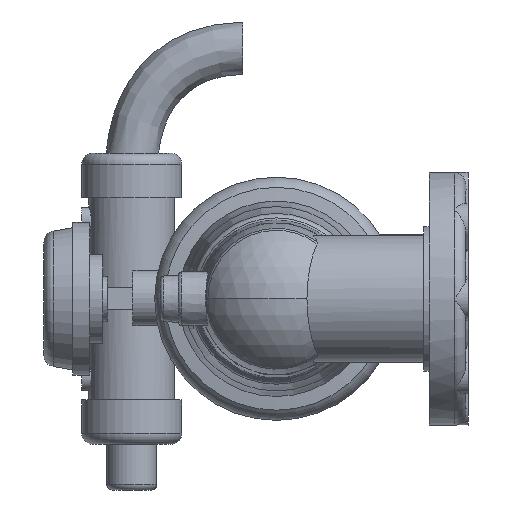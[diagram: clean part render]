
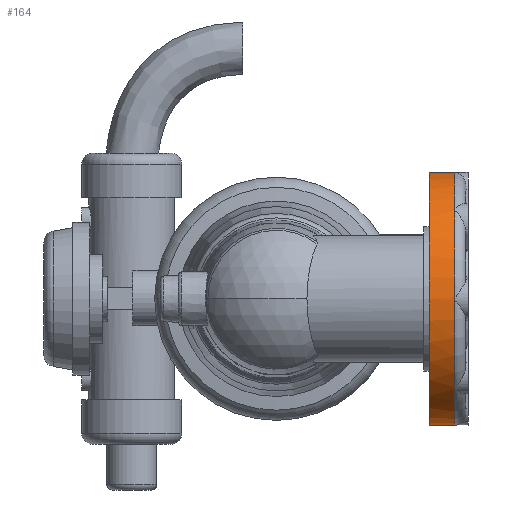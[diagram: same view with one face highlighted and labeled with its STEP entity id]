
A CAD part, front view. The second image highlights one B-rep face of the part: STEP entity #164.
In plain terms, the highlighted cylindrical face has radius 113.65 mm (diameter 227.3 mm), a partial arc.
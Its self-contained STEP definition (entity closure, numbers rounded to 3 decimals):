
#58 = AXIS2_PLACEMENT_3D ( 'NONE', #8593, #29369, #1943 ) ;
#157 = CARTESIAN_POINT ( 'NONE',  ( 160.5, -751.447, 113.641 ) ) ;
#164 = ADVANCED_FACE ( 'NONE', ( #14009 ), #16721, .T. ) ;
#166 = DIRECTION ( 'NONE',  ( 1., 0., 0. ) ) ;
#362 = DIRECTION ( 'NONE',  ( 0., 1., 0. ) ) ;
#373 = ORIENTED_EDGE ( 'NONE', *, *, #549, .F. ) ;
#549 = EDGE_CURVE ( 'NONE', #25991, #6534, #28252, .T. ) ;
#933 = DIRECTION ( 'NONE',  ( 1., 0., 0. ) ) ;
#951 = CARTESIAN_POINT ( 'NONE',  ( 160.5, -750., 0. ) ) ;
#1059 = CIRCLE ( 'NONE', #3453, 113.65 ) ;
#1549 = AXIS2_PLACEMENT_3D ( 'NONE', #20815, #166, #9384 ) ;
#1811 = CARTESIAN_POINT ( 'NONE',  ( 208.697, -750., -113.65 ) ) ;
#1943 = DIRECTION ( 'NONE',  ( 0., 0., 1. ) ) ;
#2363 = LINE ( 'NONE', #11868, #17907 ) ;
#2587 = ORIENTED_EDGE ( 'NONE', *, *, #17453, .T. ) ;
#3425 = DIRECTION ( 'NONE',  ( 1., 0., 0. ) ) ;
#3453 = AXIS2_PLACEMENT_3D ( 'NONE', #26632, #3425, #5690 ) ;
#3477 = AXIS2_PLACEMENT_3D ( 'NONE', #25595, #25751, #7511 ) ;
#3958 = ORIENTED_EDGE ( 'NONE', *, *, #18859, .F. ) ;
#4802 = DIRECTION ( 'NONE',  ( 0., 0., -1. ) ) ;
#5494 = DIRECTION ( 'NONE',  ( 1., 0., 0. ) ) ;
#5654 = CARTESIAN_POINT ( 'NONE',  ( 137.5, -750., 113.65 ) ) ;
#5690 = DIRECTION ( 'NONE',  ( 0., 0., 1. ) ) ;
#5882 = DIRECTION ( 'NONE',  ( 0., 0.707, 0.707 ) ) ;
#6304 = CARTESIAN_POINT ( 'NONE',  ( 160.5, -831.379, 79.333 ) ) ;
#6493 = AXIS2_PLACEMENT_3D ( 'NONE', #8273, #12941, #26947 ) ;
#6534 = VERTEX_POINT ( 'NONE', #20189 ) ;
#6750 = CARTESIAN_POINT ( 'NONE',  ( 160.5, -750., 0. ) ) ;
#6771 = EDGE_CURVE ( 'NONE', #25120, #16503, #24880, .T. ) ;
#7200 = EDGE_CURVE ( 'NONE', #7610, #22589, #13842, .T. ) ;
#7377 = CARTESIAN_POINT ( 'NONE',  ( 208.697, -750., 0. ) ) ;
#7419 = ORIENTED_EDGE ( 'NONE', *, *, #26792, .F. ) ;
#7511 = DIRECTION ( 'NONE',  ( 0., 0., 1. ) ) ;
#7610 = VERTEX_POINT ( 'NONE', #8020 ) ;
#7951 = ORIENTED_EDGE ( 'NONE', *, *, #20804, .F. ) ;
#8020 = CARTESIAN_POINT ( 'NONE',  ( 160.5, -863.641, 1.447 ) ) ;
#8040 = AXIS2_PLACEMENT_3D ( 'NONE', #6750, #22736, #15951 ) ;
#8273 = CARTESIAN_POINT ( 'NONE',  ( 160.5, -750., 0. ) ) ;
#8373 = CARTESIAN_POINT ( 'NONE',  ( 160.5, -831.379, -79.333 ) ) ;
#8593 = CARTESIAN_POINT ( 'NONE',  ( 160.5, -750., 0. ) ) ;
#8656 = VECTOR ( 'NONE', #29087, 1000. ) ;
#9384 = DIRECTION ( 'NONE',  ( 0., 0., 1. ) ) ;
#9568 = VERTEX_POINT ( 'NONE', #20843 ) ;
#10348 = EDGE_CURVE ( 'NONE', #11551, #19659, #24577, .T. ) ;
#11204 = DIRECTION ( 'NONE',  ( 1., 0., 0. ) ) ;
#11250 = CIRCLE ( 'NONE', #28073, 113.65 ) ;
#11551 = VERTEX_POINT ( 'NONE', #16279 ) ;
#11868 = CARTESIAN_POINT ( 'NONE',  ( 208.697, -750., 113.65 ) ) ;
#11942 = EDGE_CURVE ( 'NONE', #23024, #9568, #2363, .T. ) ;
#12140 = CIRCLE ( 'NONE', #3477, 113.65 ) ;
#12941 = DIRECTION ( 'NONE',  ( 1., 0., 0. ) ) ;
#13018 = ORIENTED_EDGE ( 'NONE', *, *, #10348, .T. ) ;
#13045 = ORIENTED_EDGE ( 'NONE', *, *, #11942, .F. ) ;
#13323 = ORIENTED_EDGE ( 'NONE', *, *, #26614, .F. ) ;
#13460 = DIRECTION ( 'NONE',  ( 0., 0., 1. ) ) ;
#13577 = ORIENTED_EDGE ( 'NONE', *, *, #6771, .F. ) ;
#13579 = DIRECTION ( 'NONE',  ( 1., 0., 0. ) ) ;
#13842 = CIRCLE ( 'NONE', #14322, 113.65 ) ;
#14009 = FACE_OUTER_BOUND ( 'NONE', #18969, .T. ) ;
#14322 = AXIS2_PLACEMENT_3D ( 'NONE', #951, #5494, #362 ) ;
#14667 = AXIS2_PLACEMENT_3D ( 'NONE', #24008, #933, #28665 ) ;
#14788 = AXIS2_PLACEMENT_3D ( 'NONE', #16156, #26525, #5882 ) ;
#15135 = CIRCLE ( 'NONE', #6493, 113.65 ) ;
#15951 = DIRECTION ( 'NONE',  ( 0., 0., 1. ) ) ;
#16156 = CARTESIAN_POINT ( 'NONE',  ( 160.5, -750., 0. ) ) ;
#16275 = CARTESIAN_POINT ( 'NONE',  ( 160.5, -750., 0. ) ) ;
#16279 = CARTESIAN_POINT ( 'NONE',  ( 137.5, -750., -113.65 ) ) ;
#16503 = VERTEX_POINT ( 'NONE', #16864 ) ;
#16562 = VERTEX_POINT ( 'NONE', #22275 ) ;
#16721 = CYLINDRICAL_SURFACE ( 'NONE', #23926, 113.65 ) ;
#16864 = CARTESIAN_POINT ( 'NONE',  ( 160.5, -829.333, 81.379 ) ) ;
#17143 = EDGE_CURVE ( 'NONE', #27433, #7610, #21728, .T. ) ;
#17453 = EDGE_CURVE ( 'NONE', #23024, #11551, #24648, .T. ) ;
#17907 = VECTOR ( 'NONE', #20471, 1000. ) ;
#18761 = ORIENTED_EDGE ( 'NONE', *, *, #17143, .F. ) ;
#18859 = EDGE_CURVE ( 'NONE', #9568, #25120, #11250, .T. ) ;
#18969 = EDGE_LOOP ( 'NONE', ( #2587, #13018, #13323, #22833, #373, #7419, #19290, #18761, #7951, #13577, #3958, #13045 ) ) ;
#19224 = EDGE_CURVE ( 'NONE', #6534, #16562, #15135, .T. ) ;
#19290 = ORIENTED_EDGE ( 'NONE', *, *, #7200, .F. ) ;
#19659 = VERTEX_POINT ( 'NONE', #25527 ) ;
#20189 = CARTESIAN_POINT ( 'NONE',  ( 160.5, -829.333, -81.379 ) ) ;
#20471 = DIRECTION ( 'NONE',  ( 1., 0., 0. ) ) ;
#20804 = EDGE_CURVE ( 'NONE', #16503, #27433, #27643, .T. ) ;
#20815 = CARTESIAN_POINT ( 'NONE',  ( 137.5, -750., 0. ) ) ;
#20843 = CARTESIAN_POINT ( 'NONE',  ( 160.5, -750., 113.65 ) ) ;
#21728 = CIRCLE ( 'NONE', #58, 113.65 ) ;
#22275 = CARTESIAN_POINT ( 'NONE',  ( 160.5, -751.447, -113.641 ) ) ;
#22589 = VERTEX_POINT ( 'NONE', #25000 ) ;
#22736 = DIRECTION ( 'NONE',  ( 1., 0., 0. ) ) ;
#22833 = ORIENTED_EDGE ( 'NONE', *, *, #19224, .F. ) ;
#23024 = VERTEX_POINT ( 'NONE', #5654 ) ;
#23926 = AXIS2_PLACEMENT_3D ( 'NONE', #7377, #11204, #13460 ) ;
#24008 = CARTESIAN_POINT ( 'NONE',  ( 160.5, -750., 0. ) ) ;
#24577 = LINE ( 'NONE', #1811, #8656 ) ;
#24648 = CIRCLE ( 'NONE', #1549, 113.65 ) ;
#24880 = CIRCLE ( 'NONE', #8040, 113.65 ) ;
#25000 = CARTESIAN_POINT ( 'NONE',  ( 160.5, -863.641, -1.447 ) ) ;
#25120 = VERTEX_POINT ( 'NONE', #157 ) ;
#25527 = CARTESIAN_POINT ( 'NONE',  ( 160.5, -750., -113.65 ) ) ;
#25595 = CARTESIAN_POINT ( 'NONE',  ( 160.5, -750., 0. ) ) ;
#25751 = DIRECTION ( 'NONE',  ( 1., 0., 0. ) ) ;
#25991 = VERTEX_POINT ( 'NONE', #8373 ) ;
#26525 = DIRECTION ( 'NONE',  ( 1., 0., 0. ) ) ;
#26614 = EDGE_CURVE ( 'NONE', #16562, #19659, #12140, .T. ) ;
#26632 = CARTESIAN_POINT ( 'NONE',  ( 160.5, -750., 0. ) ) ;
#26792 = EDGE_CURVE ( 'NONE', #22589, #25991, #1059, .T. ) ;
#26947 = DIRECTION ( 'NONE',  ( 0., 0., 1. ) ) ;
#27433 = VERTEX_POINT ( 'NONE', #6304 ) ;
#27643 = CIRCLE ( 'NONE', #14667, 113.65 ) ;
#28073 = AXIS2_PLACEMENT_3D ( 'NONE', #16275, #13579, #4802 ) ;
#28252 = CIRCLE ( 'NONE', #14788, 113.65 ) ;
#28665 = DIRECTION ( 'NONE',  ( 0., 0.707, -0.707 ) ) ;
#29087 = DIRECTION ( 'NONE',  ( 1., 0., 0. ) ) ;
#29369 = DIRECTION ( 'NONE',  ( 1., 0., 0. ) ) ;
